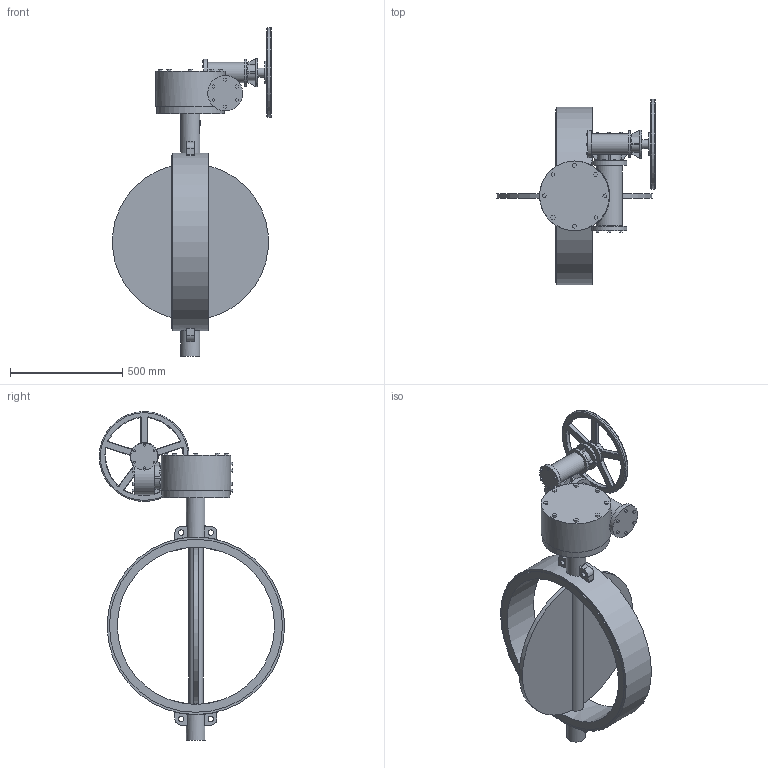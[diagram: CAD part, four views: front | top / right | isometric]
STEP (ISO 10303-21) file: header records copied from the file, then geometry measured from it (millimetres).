
FILE_DESCRIPTION(('STEP AP203'), '1');
FILE_NAME('青蜮铕 017W.YS_DN700_PN10_疱潴牝铕', '', ('UNSPECIFIED'), ('UNSPECIFIED'), 'ASCON STEP Converter 1.6', 'ASCON Math Kernel', '');
FILE_SCHEMA(('CONFIG_CONTROL_DESIGN'));
Length unit declared in the file: millimetre
Bounding box: 706.18 x 825 x 1463 mm (x, y, z)
Volume: 49822721.8 mm3; surface area: 2736180.6 mm2
Topology: 1 solids, 1 shells, 625 faces, 1579 edges, 1008 vertices
Faces by surface type: plane 399, cylinder 117, torus 81, cone 16, bspline 12
Full cylindrical faces by diameter (mm): 13.835 x8, 18 x8, 23.752 x4, 40 x1, 65 x1, 85 x2, 90 x1, 100 x1, 116 x1, 120 x2, 125 x1, 156 x3, 300 x1, 310 x1, 400 x1, 700 x1, 770 x2, 790 x1
Entity records: 26041 total; most frequent: CARTESIAN_POINT 6146, DIRECTION 3078, ORIENTED_EDGE 3006, EDGE_CURVE 1503, AXIS2_PLACEMENT_3D 1033, LINE 1012, VECTOR 1012, VERTEX_POINT 998
